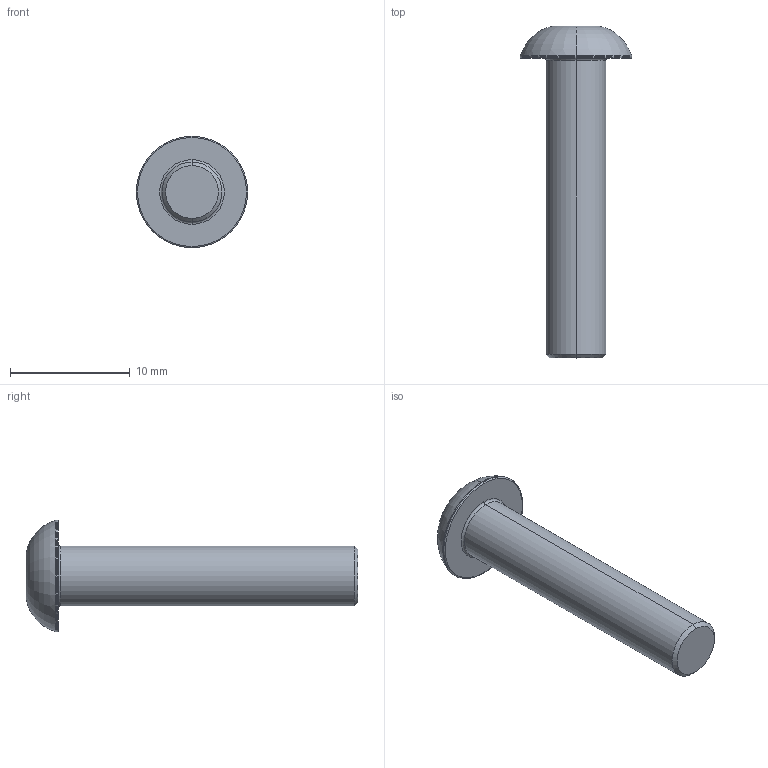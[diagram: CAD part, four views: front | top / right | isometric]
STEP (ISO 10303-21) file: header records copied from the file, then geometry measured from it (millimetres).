
FILE_DESCRIPTION (( 'STEP AP203' ), '1' );
FILE_NAME ('LGDD-TD-M5x25.STEP', '2026-08-14T01:35:20', ( '' ), ( '' ), 'SwSTEP 2.0', 'SolidWorks 2020', '' );
FILE_SCHEMA (( 'CONFIG_CONTROL_DESIGN' ));
Length unit declared in the file: millimetre
Products named in the file (1): LGDD-TD-M5x25
Bounding box: 9.3 x 27.7 x 9.3 mm (x, y, z)
Volume: 604.7 mm3; surface area: 581.1 mm2
Topology: 1 solids, 1 shells, 31 faces, 59 edges, 32 vertices
Faces by surface type: plane 10, cone 9, torus 8, cylinder 4
Entity records: 864 total; most frequent: CARTESIAN_POINT 154, DIRECTION 149, ORIENTED_EDGE 118, AXIS2_PLACEMENT_3D 65, EDGE_CURVE 59, CIRCLE 33, EDGE_LOOP 33, VERTEX_POINT 32
